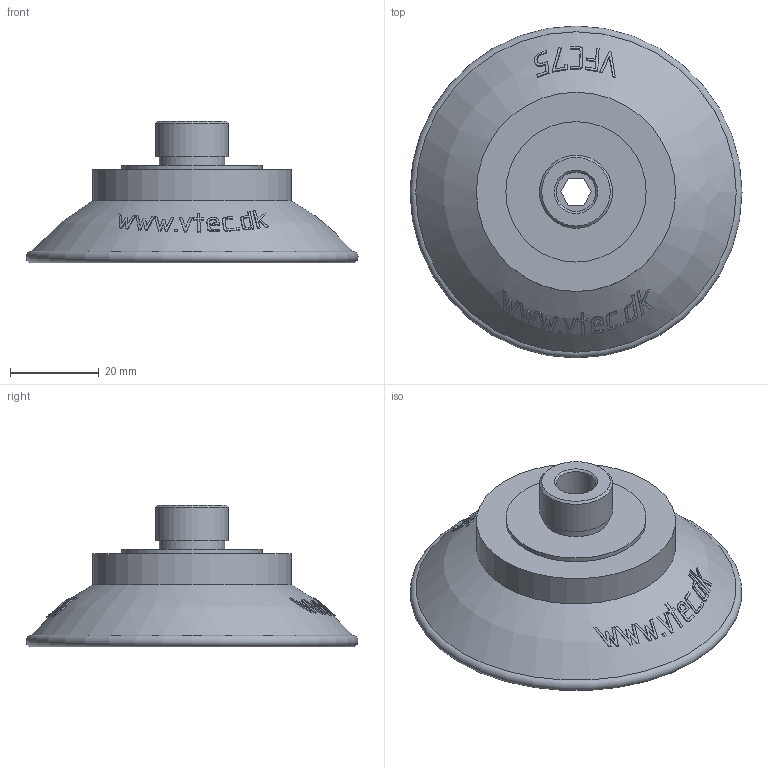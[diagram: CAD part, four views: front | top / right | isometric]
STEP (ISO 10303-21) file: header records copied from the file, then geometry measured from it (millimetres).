
FILE_DESCRIPTION( ( 'STEP AP203' ), '1' );
FILE_NAME( 'C:/Documents and Settings/Owner/官帕 拳搁/3D/Vacuum Pad/VFC series/VFC75-1838MF.stp', '2006-04-25T05:08:59', ( ' ' ), ( ' ' ), 'XStep 1.0', ' ', ' ' );
FILE_SCHEMA( ( 'CONFIG_CONTROL_DESIGN) ( )' ) );
Length unit declared in the file: metre
Products named in the file (1): 1
Bounding box: 75 x 75 x 32 mm (x, y, z)
Volume: 26445.4 mm3; surface area: 14766.5 mm2
Topology: 1 solids, 1 shells, 249 faces, 619 edges, 411 vertices
Faces by surface type: bspline 136, plane 49, sphere 38, cylinder 23, cone 2, torus 1
Full cylindrical faces by diameter (mm): 8.9 x1, 14.9 x1, 16.5 x1, 31.7 x1, 45 x1
Entity records: 13046 total; most frequent: CARTESIAN_POINT 8042, ORIENTED_EDGE 1212, DIRECTION 622, EDGE_CURVE 606, VERTEX_POINT 409, B_SPLINE_CURVE_WITH_KNOTS 319, EDGE_LOOP 301, FACE_OUTER_BOUND 257
